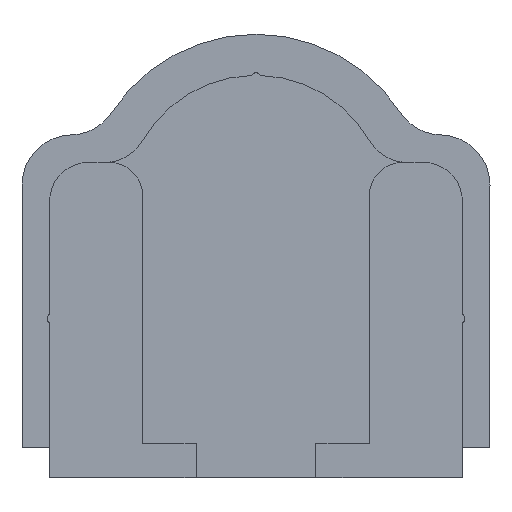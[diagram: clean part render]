
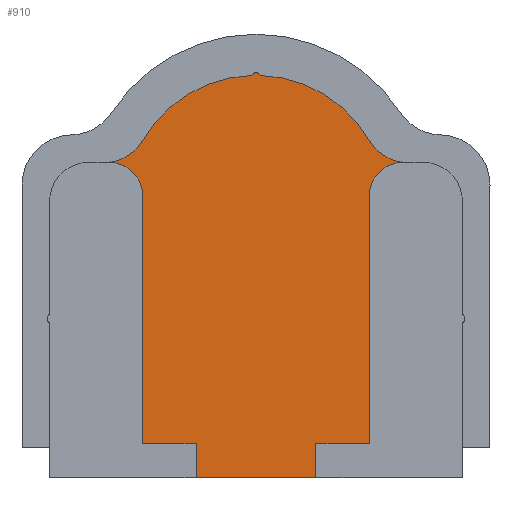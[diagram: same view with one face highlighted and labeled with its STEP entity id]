
A CAD part, top view. The second image highlights one B-rep face of the part: STEP entity #910.
In plain terms, the highlighted planar face has unit normal (0, 0, 1).
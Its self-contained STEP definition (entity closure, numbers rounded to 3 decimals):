
#15=CIRCLE('',#930,2.);
#19=CIRCLE('',#936,2.);
#42=CIRCLE('',#986,2.65);
#43=CIRCLE('',#988,7.85);
#44=CIRCLE('',#990,0.3);
#45=CIRCLE('',#992,7.85);
#46=CIRCLE('',#994,2.65);
#110=FACE_OUTER_BOUND('',#159,.T.);
#159=EDGE_LOOP('',(#810,#811,#812,#813,#814,#815,#816,#817,#818,#819,#820,
#821,#822,#823,#824,#825,#826));
#161=LINE('',#1267,#259);
#165=LINE('',#1275,#263);
#168=LINE('',#1282,#266);
#173=LINE('',#1292,#271);
#180=LINE('',#1306,#278);
#183=LINE('',#1312,#281);
#188=LINE('',#1321,#286);
#242=LINE('',#1482,#340);
#248=LINE('',#1494,#346);
#255=LINE('',#1517,#353);
#259=VECTOR('',#1005,10.);
#263=VECTOR('',#1011,10.);
#266=VECTOR('',#1016,10.);
#271=VECTOR('',#1023,10.);
#278=VECTOR('',#1036,10.);
#281=VECTOR('',#1041,10.);
#286=VECTOR('',#1048,10.);
#340=VECTOR('',#1204,10.);
#346=VECTOR('',#1220,10.);
#353=VECTOR('',#1249,10.);
#357=VERTEX_POINT('',#1265);
#358=VERTEX_POINT('',#1266);
#361=VERTEX_POINT('',#1274);
#363=VERTEX_POINT('',#1280);
#364=VERTEX_POINT('',#1281);
#368=VERTEX_POINT('',#1290);
#372=VERTEX_POINT('',#1305);
#374=VERTEX_POINT('',#1311);
#377=VERTEX_POINT('',#1319);
#378=VERTEX_POINT('',#1323);
#384=VERTEX_POINT('',#1339);
#434=VERTEX_POINT('',#1493);
#435=VERTEX_POINT('',#1497);
#436=VERTEX_POINT('',#1501);
#437=VERTEX_POINT('',#1505);
#438=VERTEX_POINT('',#1509);
#439=VERTEX_POINT('',#1513);
#440=EDGE_CURVE('',#357,#358,#161,.T.);
#444=EDGE_CURVE('',#358,#361,#165,.T.);
#447=EDGE_CURVE('',#363,#364,#168,.T.);
#452=EDGE_CURVE('',#364,#368,#173,.T.);
#459=EDGE_CURVE('',#372,#363,#180,.T.);
#462=EDGE_CURVE('',#374,#357,#183,.T.);
#467=EDGE_CURVE('',#361,#377,#188,.T.);
#468=EDGE_CURVE('',#377,#378,#15,.T.);
#476=EDGE_CURVE('',#384,#372,#19,.T.);
#548=EDGE_CURVE('',#368,#374,#242,.T.);
#554=EDGE_CURVE('',#434,#384,#248,.T.);
#556=EDGE_CURVE('',#435,#434,#42,.T.);
#558=EDGE_CURVE('',#436,#435,#43,.T.);
#560=EDGE_CURVE('',#437,#436,#44,.T.);
#562=EDGE_CURVE('',#438,#437,#45,.T.);
#564=EDGE_CURVE('',#439,#438,#46,.T.);
#566=EDGE_CURVE('',#378,#439,#255,.T.);
#810=ORIENTED_EDGE('',*,*,#444,.T.);
#811=ORIENTED_EDGE('',*,*,#467,.T.);
#812=ORIENTED_EDGE('',*,*,#468,.T.);
#813=ORIENTED_EDGE('',*,*,#566,.T.);
#814=ORIENTED_EDGE('',*,*,#564,.T.);
#815=ORIENTED_EDGE('',*,*,#562,.T.);
#816=ORIENTED_EDGE('',*,*,#560,.T.);
#817=ORIENTED_EDGE('',*,*,#558,.T.);
#818=ORIENTED_EDGE('',*,*,#556,.T.);
#819=ORIENTED_EDGE('',*,*,#554,.T.);
#820=ORIENTED_EDGE('',*,*,#476,.T.);
#821=ORIENTED_EDGE('',*,*,#459,.T.);
#822=ORIENTED_EDGE('',*,*,#447,.T.);
#823=ORIENTED_EDGE('',*,*,#452,.T.);
#824=ORIENTED_EDGE('',*,*,#548,.T.);
#825=ORIENTED_EDGE('',*,*,#462,.T.);
#826=ORIENTED_EDGE('',*,*,#440,.T.);
#861=PLANE('',#999);
#910=ADVANCED_FACE('',(#110),#861,.T.);
#930=AXIS2_PLACEMENT_3D('',#1324,#1051,#1052);
#936=AXIS2_PLACEMENT_3D('',#1340,#1067,#1068);
#986=AXIS2_PLACEMENT_3D('',#1498,#1224,#1225);
#988=AXIS2_PLACEMENT_3D('',#1502,#1229,#1230);
#990=AXIS2_PLACEMENT_3D('',#1506,#1234,#1235);
#992=AXIS2_PLACEMENT_3D('',#1510,#1239,#1240);
#994=AXIS2_PLACEMENT_3D('',#1514,#1244,#1245);
#999=AXIS2_PLACEMENT_3D('',#1524,#1259,#1260);
#1005=DIRECTION('',(0.,1.,0.));
#1011=DIRECTION('',(1.,0.,0.));
#1016=DIRECTION('',(1.,0.,0.));
#1023=DIRECTION('',(0.,-1.,0.));
#1036=DIRECTION('',(0.,-1.,0.));
#1041=DIRECTION('',(-1.,0.,0.));
#1048=DIRECTION('',(0.,1.,0.));
#1051=DIRECTION('center_axis',(0.,0.,-1.));
#1052=DIRECTION('ref_axis',(0.,1.,0.));
#1067=DIRECTION('center_axis',(0.,0.,-1.));
#1068=DIRECTION('ref_axis',(1.,0.,0.));
#1204=DIRECTION('',(1.,0.,0.));
#1220=DIRECTION('',(1.,0.,0.));
#1224=DIRECTION('center_axis',(0.,0.,-1.));
#1225=DIRECTION('ref_axis',(0.,1.,0.));
#1229=DIRECTION('center_axis',(0.,0.,1.));
#1230=DIRECTION('ref_axis',(-0.033,0.999,0.));
#1234=DIRECTION('center_axis',(0.,0.,1.));
#1235=DIRECTION('ref_axis',(0.874,0.485,0.));
#1239=DIRECTION('center_axis',(0.,0.,1.));
#1240=DIRECTION('ref_axis',(0.864,0.503,0.));
#1244=DIRECTION('center_axis',(0.,0.,-1.));
#1245=DIRECTION('ref_axis',(0.864,0.503,0.));
#1249=DIRECTION('',(1.,0.,0.));
#1259=DIRECTION('center_axis',(0.,0.,1.));
#1260=DIRECTION('ref_axis',(1.,0.,0.));
#1265=CARTESIAN_POINT('',(3.584,-9.5,2.));
#1266=CARTESIAN_POINT('',(3.584,-7.5,2.));
#1267=CARTESIAN_POINT('',(3.584,-3.795,2.));
#1274=CARTESIAN_POINT('',(6.784,-7.5,2.));
#1275=CARTESIAN_POINT('',(3.392,-7.5,2.));
#1280=CARTESIAN_POINT('',(-6.784,-7.5,2.));
#1281=CARTESIAN_POINT('',(-3.584,-7.5,2.));
#1282=CARTESIAN_POINT('',(-1.792,-7.5,2.));
#1290=CARTESIAN_POINT('',(-3.584,-9.502,2.));
#1292=CARTESIAN_POINT('',(-3.584,-4.796,2.));
#1305=CARTESIAN_POINT('',(-6.784,7.35,2.));
#1306=CARTESIAN_POINT('',(-6.784,-4.796,2.));
#1311=CARTESIAN_POINT('',(12.352,-9.5,2.));
#1312=CARTESIAN_POINT('',(3.392,-9.5,2.));
#1319=CARTESIAN_POINT('',(6.784,7.35,2.));
#1321=CARTESIAN_POINT('',(6.784,3.63,2.));
#1323=CARTESIAN_POINT('',(8.784,9.35,2.));
#1324=CARTESIAN_POINT('Origin',(8.784,7.35,2.));
#1339=CARTESIAN_POINT('',(-8.784,9.35,2.));
#1340=CARTESIAN_POINT('Origin',(-8.784,7.35,2.));
#1482=CARTESIAN_POINT('',(-12.35,-9.503,2.));
#1493=CARTESIAN_POINT('',(-9.074,9.35,2.));
#1494=CARTESIAN_POINT('',(-4.392,9.35,2.));
#1497=CARTESIAN_POINT('',(-6.784,10.666,2.));
#1498=CARTESIAN_POINT('Origin',(-9.074,12.,2.));
#1501=CARTESIAN_POINT('',(-0.262,14.562,2.));
#1502=CARTESIAN_POINT('Origin',(0.,6.716,2.));
#1505=CARTESIAN_POINT('',(0.262,14.562,2.));
#1506=CARTESIAN_POINT('Origin',(0.,14.416,2.));
#1509=CARTESIAN_POINT('',(6.784,10.666,2.));
#1510=CARTESIAN_POINT('Origin',(0.,6.716,2.));
#1513=CARTESIAN_POINT('',(9.074,9.35,2.));
#1514=CARTESIAN_POINT('Origin',(9.074,12.,2.));
#1517=CARTESIAN_POINT('',(5.,9.35,2.));
#1524=CARTESIAN_POINT('Origin',(0.,-0.089,2.));
